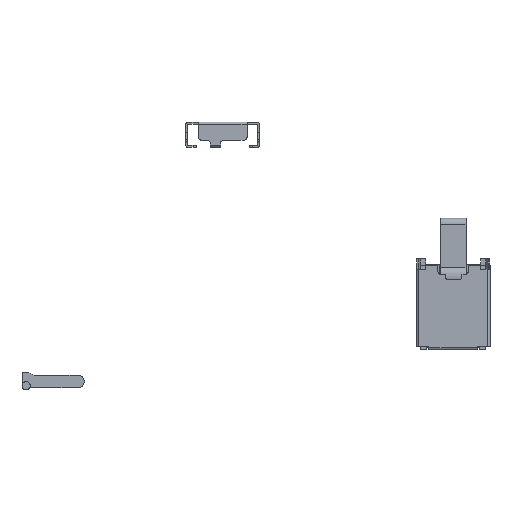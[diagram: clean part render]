
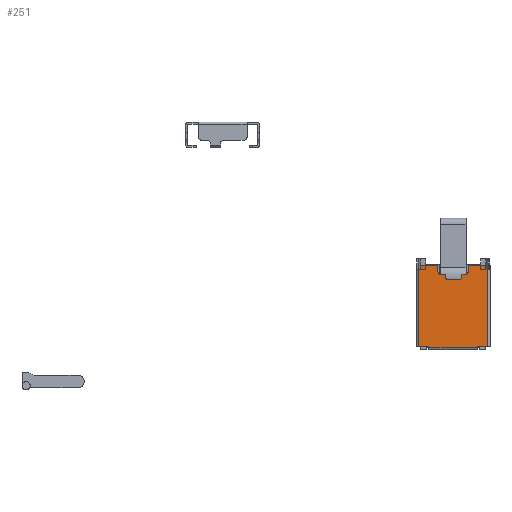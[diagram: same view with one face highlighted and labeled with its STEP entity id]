
A CAD part, top view. The second image highlights one B-rep face of the part: STEP entity #251.
In plain terms, the highlighted planar face has unit normal (0, 0, 1) as drawn and (0, 1, 0) by its records, which use the part's own axes.
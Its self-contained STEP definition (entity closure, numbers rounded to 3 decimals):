
#251 = ADVANCED_FACE( '', ( #634 ), #635, .F. );
#634 = FACE_OUTER_BOUND( '', #1191, .T. );
#635 = PLANE( '', #1192 );
#1191 = EDGE_LOOP( '', ( #1776, #1777, #1778, #1779, #1780, #1781, #1782, #1783, #1784, #1785, #1786, #1787, #1788, #1789, #1790, #1791, #1792, #1793, #1794, #1795 ) );
#1192 = AXIS2_PLACEMENT_3D( '', #1796, #1797, #1798 );
#1776 = ORIENTED_EDGE( '', *, *, #3378, .T. );
#1777 = ORIENTED_EDGE( '', *, *, #3379, .F. );
#1778 = ORIENTED_EDGE( '', *, *, #3380, .T. );
#1779 = ORIENTED_EDGE( '', *, *, #3381, .F. );
#1780 = ORIENTED_EDGE( '', *, *, #3382, .F. );
#1781 = ORIENTED_EDGE( '', *, *, #3383, .T. );
#1782 = ORIENTED_EDGE( '', *, *, #3384, .F. );
#1783 = ORIENTED_EDGE( '', *, *, #3385, .T. );
#1784 = ORIENTED_EDGE( '', *, *, #3386, .F. );
#1785 = ORIENTED_EDGE( '', *, *, #3387, .F. );
#1786 = ORIENTED_EDGE( '', *, *, #3388, .T. );
#1787 = ORIENTED_EDGE( '', *, *, #3389, .F. );
#1788 = ORIENTED_EDGE( '', *, *, #3390, .T. );
#1789 = ORIENTED_EDGE( '', *, *, #3391, .T. );
#1790 = ORIENTED_EDGE( '', *, *, #3392, .F. );
#1791 = ORIENTED_EDGE( '', *, *, #3393, .F. );
#1792 = ORIENTED_EDGE( '', *, *, #3394, .T. );
#1793 = ORIENTED_EDGE( '', *, *, #3395, .T. );
#1794 = ORIENTED_EDGE( '', *, *, #3396, .F. );
#1795 = ORIENTED_EDGE( '', *, *, #3397, .T. );
#1796 = CARTESIAN_POINT( '', ( -9.5, 6.948, 4. ) );
#1797 = DIRECTION( '', ( 0., -1., 0. ) );
#1798 = DIRECTION( '', ( 1., 0., 0. ) );
#3378 = EDGE_CURVE( '', #4056, #4057, #4058, .T. );
#3379 = EDGE_CURVE( '', #4059, #4057, #4060, .T. );
#3380 = EDGE_CURVE( '', #4059, #4061, #4062, .T. );
#3381 = EDGE_CURVE( '', #4063, #4061, #4064, .T. );
#3382 = EDGE_CURVE( '', #4065, #4063, #4066, .T. );
#3383 = EDGE_CURVE( '', #4065, #4067, #4068, .T. );
#3384 = EDGE_CURVE( '', #4069, #4067, #4070, .T. );
#3385 = EDGE_CURVE( '', #4069, #4071, #4072, .T. );
#3386 = EDGE_CURVE( '', #4073, #4071, #4074, .T. );
#3387 = EDGE_CURVE( '', #4075, #4073, #4076, .T. );
#3388 = EDGE_CURVE( '', #4075, #4077, #4078, .T. );
#3389 = EDGE_CURVE( '', #4079, #4077, #4080, .T. );
#3390 = EDGE_CURVE( '', #4079, #4081, #4082, .T. );
#3391 = EDGE_CURVE( '', #4081, #4083, #4084, .F. );
#3392 = EDGE_CURVE( '', #4085, #4083, #4086, .T. );
#3393 = EDGE_CURVE( '', #4087, #4085, #4088, .T. );
#3394 = EDGE_CURVE( '', #4087, #4089, #4090, .T. );
#3395 = EDGE_CURVE( '', #4089, #4091, #4092, .T. );
#3396 = EDGE_CURVE( '', #4093, #4091, #4094, .T. );
#3397 = EDGE_CURVE( '', #4093, #4056, #4095, .T. );
#4056 = VERTEX_POINT( '', #5132 );
#4057 = VERTEX_POINT( '', #5133 );
#4058 = LINE( '', #5134, #5135 );
#4059 = VERTEX_POINT( '', #5136 );
#4060 = LINE( '', #5137, #5138 );
#4061 = VERTEX_POINT( '', #5139 );
#4062 = CIRCLE( '', #5140, 0.15 );
#4063 = VERTEX_POINT( '', #5141 );
#4064 = LINE( '', #5142, #5143 );
#4065 = VERTEX_POINT( '', #5144 );
#4066 = LINE( '', #5145, #5146 );
#4067 = VERTEX_POINT( '', #5147 );
#4068 = CIRCLE( '', #5148, 0.1 );
#4069 = VERTEX_POINT( '', #5149 );
#4070 = LINE( '', #5150, #5151 );
#4071 = VERTEX_POINT( '', #5152 );
#4072 = CIRCLE( '', #5153, 0.1 );
#4073 = VERTEX_POINT( '', #5154 );
#4074 = LINE( '', #5155, #5156 );
#4075 = VERTEX_POINT( '', #5157 );
#4076 = LINE( '', #5158, #5159 );
#4077 = VERTEX_POINT( '', #5160 );
#4078 = CIRCLE( '', #5161, 0.15 );
#4079 = VERTEX_POINT( '', #5162 );
#4080 = LINE( '', #5163, #5164 );
#4081 = VERTEX_POINT( '', #5165 );
#4082 = LINE( '', #5166, #5167 );
#4083 = VERTEX_POINT( '', #5168 );
#4084 = LINE( '', #5169, #5170 );
#4085 = VERTEX_POINT( '', #5171 );
#4086 = LINE( '', #5172, #5173 );
#4087 = VERTEX_POINT( '', #5174 );
#4088 = LINE( '', #5175, #5176 );
#4089 = VERTEX_POINT( '', #5177 );
#4090 = LINE( '', #5178, #5179 );
#4091 = VERTEX_POINT( '', #5180 );
#4092 = LINE( '', #5181, #5182 );
#4093 = VERTEX_POINT( '', #5183 );
#4094 = LINE( '', #5184, #5185 );
#4095 = LINE( '', #5186, #5187 );
#5132 = CARTESIAN_POINT( '', ( -9.6, 6.948, 0. ) );
#5133 = CARTESIAN_POINT( '', ( -10.55, 6.948, 0. ) );
#5134 = CARTESIAN_POINT( '', ( -9.5, 6.948, 0. ) );
#5135 = VECTOR( '', #6441, 1000. );
#5136 = CARTESIAN_POINT( '', ( -10.55, 6.948, 0.3 ) );
#5137 = CARTESIAN_POINT( '', ( -10.55, 6.948, 0.45 ) );
#5138 = VECTOR( '', #6442, 1000. );
#5139 = CARTESIAN_POINT( '', ( -10.7, 6.948, 0.45 ) );
#5140 = AXIS2_PLACEMENT_3D( '', #6443, #6444, #6445 );
#5141 = CARTESIAN_POINT( '', ( -10.875, 6.948, 0.45 ) );
#5142 = CARTESIAN_POINT( '', ( -10.875, 6.948, 0.45 ) );
#5143 = VECTOR( '', #6446, 1000. );
#5144 = CARTESIAN_POINT( '', ( -10.875, 6.948, 0.6 ) );
#5145 = CARTESIAN_POINT( '', ( -10.875, 6.948, 0.7 ) );
#5146 = VECTOR( '', #6447, 1000. );
#5147 = CARTESIAN_POINT( '', ( -10.975, 6.948, 0.7 ) );
#5148 = AXIS2_PLACEMENT_3D( '', #6448, #6449, #6450 );
#5149 = CARTESIAN_POINT( '', ( -11.575, 6.948, 0.7 ) );
#5150 = CARTESIAN_POINT( '', ( -11.675, 6.948, 0.7 ) );
#5151 = VECTOR( '', #6451, 1000. );
#5152 = CARTESIAN_POINT( '', ( -11.675, 6.948, 0.6 ) );
#5153 = AXIS2_PLACEMENT_3D( '', #6452, #6453, #6454 );
#5154 = CARTESIAN_POINT( '', ( -11.675, 6.948, 0.45 ) );
#5155 = CARTESIAN_POINT( '', ( -11.675, 6.948, 0.45 ) );
#5156 = VECTOR( '', #6455, 1000. );
#5157 = CARTESIAN_POINT( '', ( -11.9, 6.948, 0.45 ) );
#5158 = CARTESIAN_POINT( '', ( -12.05, 6.948, 0.45 ) );
#5159 = VECTOR( '', #6456, 1000. );
#5160 = CARTESIAN_POINT( '', ( -12.05, 6.948, 0.3 ) );
#5161 = AXIS2_PLACEMENT_3D( '', #6457, #6458, #6459 );
#5162 = CARTESIAN_POINT( '', ( -12.05, 6.948, 0. ) );
#5163 = CARTESIAN_POINT( '', ( -12.05, 6.948, 0. ) );
#5164 = VECTOR( '', #6460, 1000. );
#5165 = CARTESIAN_POINT( '', ( -13., 6.948, 0. ) );
#5166 = CARTESIAN_POINT( '', ( -9.5, 6.948, 0. ) );
#5167 = VECTOR( '', #6461, 1000. );
#5168 = CARTESIAN_POINT( '', ( -13., 6.948, 4. ) );
#5169 = CARTESIAN_POINT( '', ( -13., 6.948, 4. ) );
#5170 = VECTOR( '', #6462, 1000. );
#5171 = CARTESIAN_POINT( '', ( -12.5, 6.948, 4. ) );
#5172 = CARTESIAN_POINT( '', ( -9.5, 6.948, 4. ) );
#5173 = VECTOR( '', #6463, 1000. );
#5174 = CARTESIAN_POINT( '', ( -12.5, 6.948, 4.05 ) );
#5175 = CARTESIAN_POINT( '', ( -12.5, 6.948, 4. ) );
#5176 = VECTOR( '', #6464, 1000. );
#5177 = CARTESIAN_POINT( '', ( -10.1, 6.948, 4.05 ) );
#5178 = CARTESIAN_POINT( '', ( -9.5, 6.948, 4.05 ) );
#5179 = VECTOR( '', #6465, 1000. );
#5180 = CARTESIAN_POINT( '', ( -10.1, 6.948, 4. ) );
#5181 = CARTESIAN_POINT( '', ( -10.1, 6.948, 4. ) );
#5182 = VECTOR( '', #6466, 1000. );
#5183 = CARTESIAN_POINT( '', ( -9.6, 6.948, 4. ) );
#5184 = CARTESIAN_POINT( '', ( -9.5, 6.948, 4. ) );
#5185 = VECTOR( '', #6467, 1000. );
#5186 = CARTESIAN_POINT( '', ( -9.6, 6.948, 4. ) );
#5187 = VECTOR( '', #6468, 1000. );
#6441 = DIRECTION( '', ( -1., 0., 0. ) );
#6442 = DIRECTION( '', ( 0., 0., -1. ) );
#6443 = CARTESIAN_POINT( '', ( -10.7, 6.948, 0.3 ) );
#6444 = DIRECTION( '', ( 0., -1., 0. ) );
#6445 = DIRECTION( '', ( 1., 0., 0. ) );
#6446 = DIRECTION( '', ( 1., 0., 0. ) );
#6447 = DIRECTION( '', ( 0., 0., -1. ) );
#6448 = CARTESIAN_POINT( '', ( -10.975, 6.948, 0.6 ) );
#6449 = DIRECTION( '', ( 0., -1., 0. ) );
#6450 = DIRECTION( '', ( 1., 0., 0. ) );
#6451 = DIRECTION( '', ( 1., 0., 0. ) );
#6452 = CARTESIAN_POINT( '', ( -11.575, 6.948, 0.6 ) );
#6453 = DIRECTION( '', ( 0., -1., 0. ) );
#6454 = DIRECTION( '', ( 1., 0., 0. ) );
#6455 = DIRECTION( '', ( 0., 0., 1. ) );
#6456 = DIRECTION( '', ( 1., 0., 0. ) );
#6457 = CARTESIAN_POINT( '', ( -11.9, 6.948, 0.3 ) );
#6458 = DIRECTION( '', ( 0., -1., 0. ) );
#6459 = DIRECTION( '', ( 1., 0., 0. ) );
#6460 = DIRECTION( '', ( 0., 0., 1. ) );
#6461 = DIRECTION( '', ( -1., 0., 0. ) );
#6462 = DIRECTION( '', ( 0., 0., -1. ) );
#6463 = DIRECTION( '', ( -1., 0., 0. ) );
#6464 = DIRECTION( '', ( 0., 0., -1. ) );
#6465 = DIRECTION( '', ( 1., 0., 0. ) );
#6466 = DIRECTION( '', ( 0., 0., -1. ) );
#6467 = DIRECTION( '', ( -1., 0., 0. ) );
#6468 = DIRECTION( '', ( 0., 0., -1. ) );
